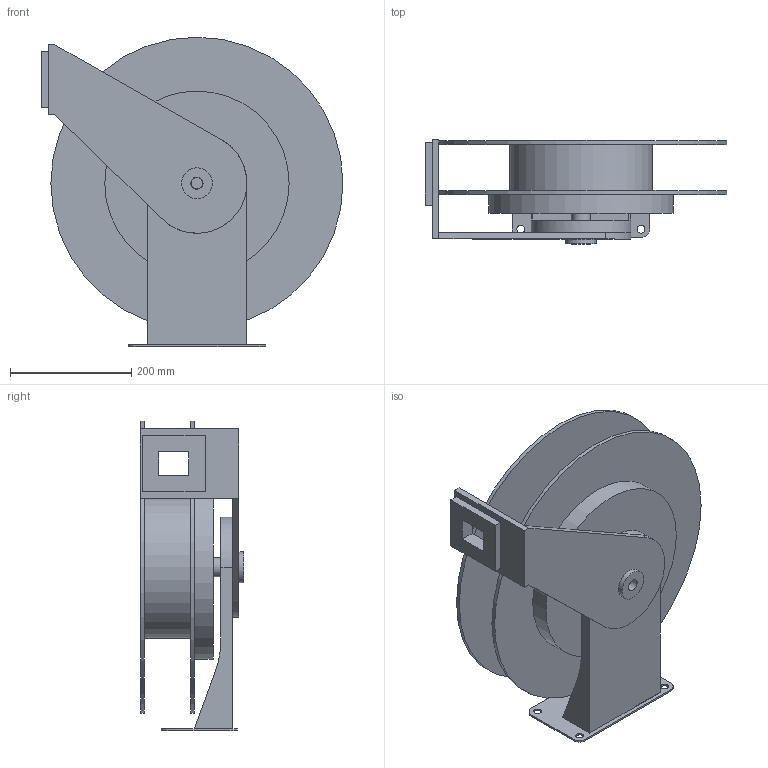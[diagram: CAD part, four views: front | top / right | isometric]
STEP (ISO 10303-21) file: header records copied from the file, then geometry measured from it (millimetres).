
FILE_DESCRIPTION( ( 'Unknown' ), '1' );
FILE_NAME( 'J:/NPD/RE 12893 3D WEB MODELS/7000 SERIES/7000 OLP SW.stp', 'Unknown', ( 'Unknown' ), ( 'Unknown' ), 'PSStep 10.1', 'Unknown', ' ' );
FILE_SCHEMA( ( 'AUTOMOTIVE_DESIGN { 1 0 10303 214 1 1 1 1 }' ) );
Length unit declared in the file: millimetre
Products named in the file (1): 1
Bounding box: 498.88 x 171.45 x 511.56 mm (x, y, z)
Volume: 5593695.4 mm3; surface area: 1155389.7 mm2
Topology: 1 solids, 1 shells, 114 faces, 273 edges, 178 vertices
Faces by surface type: plane 79, cylinder 26, cone 8, bspline 1
Full cylindrical faces by diameter (mm): 13.106 x4, 18.923 x2, 24.13 x1, 31.75 x1, 38.1 x1, 44.45 x1, 50.8 x1, 107.95 x1, 231.953 x1, 234.95 x1, 304.648 x1, 482.6 x2
Entity records: 4171 total; most frequent: CARTESIAN_POINT 647, DIRECTION 530, ORIENTED_EDGE 496, EDGE_CURVE 248, AXIS2_PLACEMENT_3D 185, VERTEX_POINT 174, EDGE_LOOP 162, LINE 160
